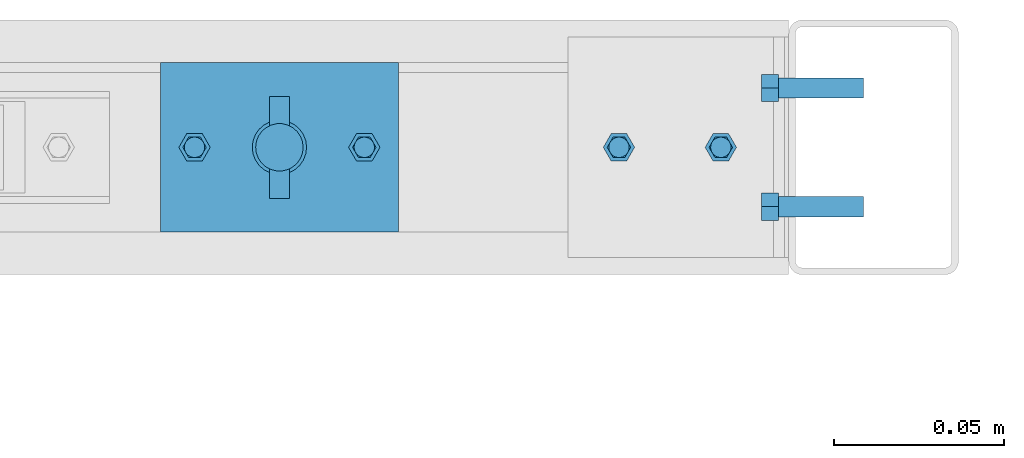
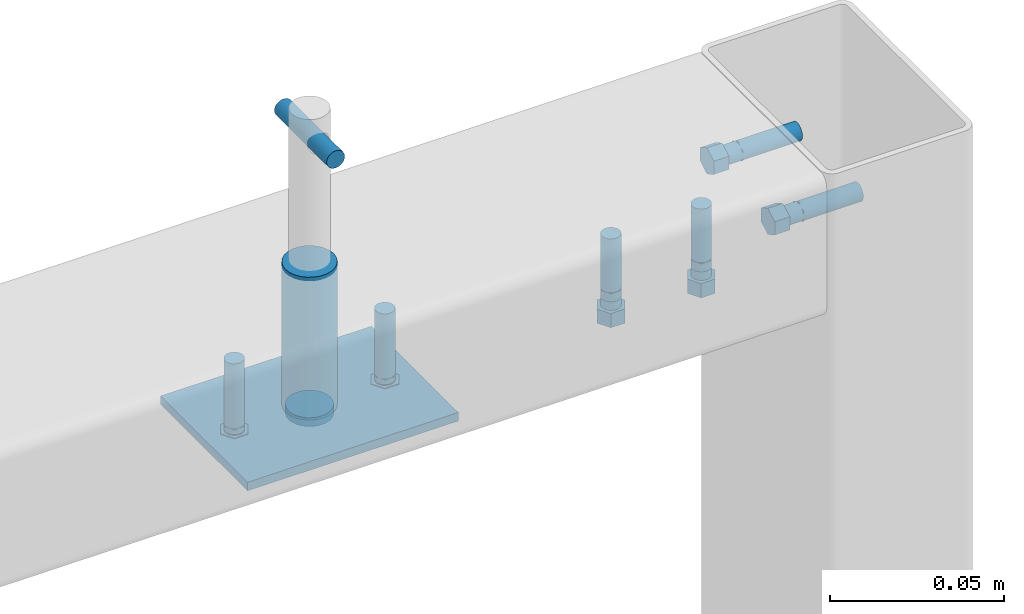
# One storey, part 76 of 91: 9 mechanical fasteners, 2 discrete accessories, 1 element without a shape of its own.
"""IFC2X3 building model written with IfcOpenShell, lengths in millimetres."""

from ifc_helpers import new_model, si_unit, frame, origin_with_axes, origin_2d_with_axis, place, context, subcontext, project, spatial, polyline, circle, outline, extrude, source, transform, mapped, material, type_object, element, aggregate, save


model = new_model("IFC2X3")

# Units and contexts
model_context = context("Model", 3, precision=1e-05, world=origin_with_axes())
body_context = subcontext(model_context, "Body", "Model", "MODEL_VIEW")
ifc_project = project(units=[si_unit("LENGTHUNIT", "METRE", prefix="MILLI"), si_unit("AREAUNIT", "SQUARE_METRE"), si_unit("VOLUMEUNIT", "CUBIC_METRE"), si_unit("MASSUNIT", "GRAM", prefix="KILO"), si_unit("TIMEUNIT", "SECOND"), si_unit("PLANEANGLEUNIT", "RADIAN"), si_unit("SOLIDANGLEUNIT", "STERADIAN"), si_unit("THERMODYNAMICTEMPERATUREUNIT", "DEGREE_CELSIUS"), si_unit("LUMINOUSINTENSITYUNIT", "LUMEN")], contexts=[model_context])

# Site, building, storey
site_placement = place(None, origin_with_axes())
site = spatial("IfcSite", under=ifc_project, at=site_placement, Name="Undefined", CompositionType="ELEMENT")
building_placement = place(site_placement, origin_with_axes())
building = spatial("IfcBuilding", under=site, at=building_placement, Name="Undefined", CompositionType="ELEMENT")
storey_placement = place(building_placement, origin_with_axes())
storey = spatial("IfcBuildingStorey", under=building, at=storey_placement, Name="Undefined", CompositionType="ELEMENT", Elevation=0.0)

# Assembly, mechanical fasteners, discrete accessories
assembly_placement = place(storey_placement, origin_with_axes())
assembly = element("IfcElementAssembly", 1, at=assembly_placement, inside=storey, Name="Sliding Door Beam", AssemblyPlace="NOTDEFINED", PredefinedType="RIGID_FRAME")
ifc_material_1 = material(Name="TEK_11TPIM")
discrete_accessory_type_1 = type_object("IfcDiscreteAccessoryType", Name="Bolt assembly")
shared_shape_1 = source(origin_with_axes(), body_context, "Body", "SweptSolid", [
    extrude(circle(Radius=3.0, at=origin_2d_with_axis()), frame((0.0, 6.10000000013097, 0.0), z_axis=(0.0, 1.0, 0.0), x_axis=(1.0, 0.0, 0.0)), (0.0, 0.0, 1.0), 3.0),
    extrude(circle(Radius=3.0, at=origin_2d_with_axis()), frame((0.0, 8.9, 0.0), z_axis=(0.0, 1.0, 0.0), x_axis=(1.0, 0.0, 0.0)), (0.0, 0.0, 1.0), 2.1),
    extrude(outline(polyline([(4.61880215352, 0.0), (2.30940107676, 4.00000000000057), (-2.30940107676, 4.00000000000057), (-4.61880215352, 0.0), (-2.30940107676, -4.00000000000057), (2.30940107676, -4.00000000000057), (4.61880215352, 0.0)])), frame((0.0, 1.00000000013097, 0.0), z_axis=(0.0, 1.0, 0.0), x_axis=(1.0, 0.0, 0.0)), (0.0, 0.0, 1.0), 5.0),
    extrude(circle(Radius=3.0, at=origin_2d_with_axis()), frame((0.0, 6.00000000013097, 0.0), z_axis=(0.0, 1.0, 0.0), x_axis=(1.0, 0.0, 0.0)), (0.0, 0.0, 1.0), 25.0),
    extrude(circle(Radius=3.0, at=origin_2d_with_axis()), frame((0.0, 11.0, 0.0), z_axis=(0.0, 1.0, 0.0), x_axis=(1.0, 0.0, 0.0)), (0.0, 0.0, 1.0), 0.1),
    extrude(outline(polyline([(3.46410161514, 0.0), (1.73205080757, 3.00000000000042), (-1.73205080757, 3.00000000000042), (-3.46410161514, 0.0), (-1.73205080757, -3.00000000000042), (1.73205080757, -3.00000000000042), (3.46410161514, 0.0)])), frame((0.0, 11.1000000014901, 0.0), z_axis=(0.0, 1.0, 0.0), x_axis=(1.0, 0.0, 0.0)), (0.0, 0.0, 1.0), 0.1),
])
mechanical_fastener_1_placement = place(assembly_placement, frame((-110610.29, 93380.0, 3351.0), z_axis=(0.0, -1.0, 0.0), x_axis=(0.0, 0.0, -1.0)))
mechanical_fastener_1 = element("IfcMechanicalFastener", 2, at=mechanical_fastener_1_placement, type_object=discrete_accessory_type_1, material=ifc_material_1, Name="Bolt assembly", NominalDiameter=6.0, NominalLength=25.0, context=body_context, shape_type="MappedRepresentation", body=[
    mapped(shared_shape_1, transform((0.0, 0.0, -17.5))),
    mapped(shared_shape_1, transform((0.0, 0.0, 17.5))),
])
shared_shape_2 = source(origin_with_axes(), body_context, "Body", "SweptSolid", [
    extrude(circle(Radius=3.0, at=origin_2d_with_axis()), frame((0.0, 0.1, 0.0), z_axis=(0.0, 1.0, 0.0), x_axis=(1.0, 0.0, 0.0)), (0.0, 0.0, 1.0), 2.0),
    extrude(circle(Radius=3.0, at=origin_2d_with_axis()), frame((0.0, 2.90000000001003, 0.0), z_axis=(0.0, 1.0, 0.0), x_axis=(1.0, 0.0, 0.0)), (0.0, 0.0, 1.0), 3.1),
    extrude(outline(polyline([(4.61880215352, 0.0), (2.30940107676, 4.00000000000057), (-2.30940107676, 4.00000000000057), (-4.61880215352, 0.0), (-2.30940107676, -4.00000000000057), (2.30940107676, -4.00000000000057), (4.61880215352, 0.0)])), frame((0.0, -5.0, 0.0), z_axis=(0.0, 1.0, 0.0), x_axis=(1.0, 0.0, 0.0)), (0.0, 0.0, 1.0), 5.0),
    extrude(circle(Radius=3.0, at=origin_2d_with_axis()), frame((0.0, 0.0, 0.0), z_axis=(0.0, 1.0, 0.0), x_axis=(1.0, 0.0, 0.0)), (0.0, 0.0, 1.0), 25.0),
    extrude(circle(Radius=3.0, at=origin_2d_with_axis()), frame((0.0, 6.00000000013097, 0.0), z_axis=(0.0, 1.0, 0.0), x_axis=(1.0, 0.0, 0.0)), (0.0, 0.0, 1.0), 0.1),
    extrude(outline(polyline([(3.46410161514, 0.0), (1.73205080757, 3.00000000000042), (-1.73205080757, 3.00000000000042), (-3.46410161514, 0.0), (-1.73205080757, -3.00000000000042), (1.73205080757, -3.00000000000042), (3.46410161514, 0.0)])), frame((0.0, 6.10000000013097, 0.0), z_axis=(0.0, 1.0, 0.0), x_axis=(1.0, 0.0, 0.0)), (0.0, 0.0, 1.0), 0.1),
])
mechanical_fastener_2_placement = place(assembly_placement, frame((-110621.29, 93380.0, 3326.0), z_axis=(0.0, 1.0, 0.0), x_axis=(-1.0, 0.0, 0.0)))
mechanical_fastener_2 = element("IfcMechanicalFastener", 3, at=mechanical_fastener_2_placement, type_object=discrete_accessory_type_1, material=ifc_material_1, Name="Bolt assembly", NominalDiameter=6.0, NominalLength=25.0, context=body_context, shape_type="MappedRepresentation", body=[
    mapped(shared_shape_2, transform((0.0, 0.0, 0.0))),
    mapped(shared_shape_2, transform((30.0, 0.0, 0.0))),
])
ifc_material_2 = material(Name="STEEL/250")
discrete_accessory_type_2 = type_object("IfcDiscreteAccessoryType", Name="PLATE")
discrete_accessory_1_placement = place(assembly_placement, frame((-110786.29, 93405.0, 3324.5), z_axis=(0.0, 0.0, 1.0), x_axis=(0.0, -1.0, 0.0)))
discrete_accessory_1 = element("IfcDiscreteAccessory", 4, at=discrete_accessory_1_placement, type_object=discrete_accessory_type_2, material=ifc_material_2, Name="PLATE", ObjectType="PLT3*50", context=body_context, shape_type="SweptSolid", body=[
    extrude(outline(polyline([(0.0, 0.0), (50.0, 0.0), (50.0, 70.0), (0.0, 70.0), (0.0, 0.0)])), frame((0.0, 0.0, -1.5), z_axis=(0.0, 0.0, 1.0), x_axis=(1.0, 0.0, 0.0)), (0.0, 0.0, 1.0), 3.0),
])
shared_shape_3 = source(origin_with_axes(), body_context, "Body", "SweptSolid", [
    extrude(circle(Radius=3.0, at=origin_2d_with_axis()), frame((0.0, 2.00000000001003, 0.0), z_axis=(0.0, 1.0, 0.0), x_axis=(1.0, 0.0, 0.0)), (0.0, 0.0, 1.0), 3.1),
])
mechanical_fastener_3_placement = place(assembly_placement, frame((-110621.29, 93380.0, 3327.0), z_axis=(0.0, 1.0, 0.0), x_axis=(-1.0, 0.0, 0.0)))
mechanical_fastener_3 = element("IfcMechanicalFastener", 5, at=mechanical_fastener_3_placement, type_object=discrete_accessory_type_1, material=ifc_material_1, Name="Bolt assembly", NominalDiameter=6.0, NominalLength=8.0, context=body_context, shape_type="MappedRepresentation", body=[
    mapped(shared_shape_3, transform((0.0, 0.0, 0.0))),
    mapped(shared_shape_3, transform((30.0, 0.0, 0.0))),
])
ifc_material_3 = material(Name="8.8S")
shared_shape_4 = source(origin_with_axes(), body_context, "Body", "SweptSolid", [
    extrude(circle(Radius=3.0, at=origin_2d_with_axis()), frame((0.0, -1.0, 0.0), z_axis=(0.0, 1.0, 0.0), x_axis=(1.0, 0.0, 0.0)), (0.0, 0.0, 1.0), 3.1),
])
mechanical_fastener_4_placement = place(assembly_placement, frame((-110726.29, 93380.0, 3324.0), z_axis=(0.0, 1.0, 0.0), x_axis=(-1.0, 0.0, 0.0)))
mechanical_fastener_4 = element("IfcMechanicalFastener", 6, at=mechanical_fastener_4_placement, type_object=discrete_accessory_type_1, material=ifc_material_3, Name="Bolt assembly", NominalDiameter=6.0, NominalLength=3.0, context=body_context, shape_type="MappedRepresentation", body=[
    mapped(shared_shape_4, transform((0.0, 0.0, 0.0))),
])
mechanical_fastener_5_placement = place(assembly_placement, frame((-110776.29, 93380.0, 3324.0), z_axis=(0.0, -1.0, 0.0), x_axis=(1.0, 0.0, 0.0)))
mechanical_fastener_5 = element("IfcMechanicalFastener", 7, at=mechanical_fastener_5_placement, type_object=discrete_accessory_type_1, material=ifc_material_3, Name="Bolt assembly", NominalDiameter=6.0, NominalLength=3.0, context=body_context, shape_type="MappedRepresentation", body=[
    mapped(shared_shape_4, transform((0.0, 0.0, 0.0))),
])
shared_shape_5 = source(origin_with_axes(), body_context, "Body", "SweptSolid", [
    extrude(circle(Radius=7.0, at=origin_2d_with_axis()), frame((0.0, -1.0, 0.0), z_axis=(0.0, 1.0, 0.0), x_axis=(1.0, 0.0, 0.0)), (0.0, 0.0, 1.0), 3.1),
])
mechanical_fastener_6_placement = place(assembly_placement, frame((-110751.29, 93380.0, 3324.0), z_axis=(0.0, -1.0, 0.0), x_axis=(1.0, 0.0, 0.0)))
mechanical_fastener_6 = element("IfcMechanicalFastener", 8, at=mechanical_fastener_6_placement, type_object=discrete_accessory_type_1, material=ifc_material_3, Name="Bolt assembly", NominalDiameter=12.0, NominalLength=3.0, context=body_context, shape_type="MappedRepresentation", body=[
    mapped(shared_shape_5, transform((0.0, 0.0, 0.0))),
])
shared_shape_6 = source(origin_with_axes(), body_context, "Body", "SweptSolid", [
    extrude(circle(Radius=3.0, at=origin_2d_with_axis()), frame((0.0, 0.0, 0.0), z_axis=(0.0, 1.0, 0.0), x_axis=(1.0, 0.0, 0.0)), (0.0, 0.0, 1.0), 2.1),
    extrude(outline(polyline([(4.61880215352, 0.0), (2.30940107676, 4.00000000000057), (-2.30940107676, 4.00000000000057), (-4.61880215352, 0.0), (-2.30940107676, -4.00000000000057), (2.30940107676, -4.00000000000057), (4.61880215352, 0.0)])), frame((0.0, -5.0, 0.0), z_axis=(0.0, 1.0, 0.0), x_axis=(1.0, 0.0, 0.0)), (0.0, 0.0, 1.0), 5.0),
    extrude(circle(Radius=3.0, at=origin_2d_with_axis()), frame((0.0, 0.0, 0.0), z_axis=(0.0, 1.0, 0.0), x_axis=(1.0, 0.0, 0.0)), (0.0, 0.0, 1.0), 25.0),
    extrude(circle(Radius=3.0, at=origin_2d_with_axis()), frame((0.0, 2.00000000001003, 0.0), z_axis=(0.0, 1.0, 0.0), x_axis=(1.0, 0.0, 0.0)), (0.0, 0.0, 1.0), 0.1),
    extrude(outline(polyline([(3.46410161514, 0.0), (1.73205080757, 3.00000000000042), (-1.73205080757, 3.00000000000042), (-3.46410161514, 0.0), (-1.73205080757, -3.00000000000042), (1.73205080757, -3.00000000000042), (3.46410161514, 0.0)])), frame((0.0, 2.10000000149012, 0.0), z_axis=(0.0, 1.0, 0.0), x_axis=(1.0, 0.0, 0.0)), (0.0, 0.0, 1.0), 0.1),
])
mechanical_fastener_7_placement = place(assembly_placement, frame((-110726.29, 93380.0, 3326.0), z_axis=(0.0, 1.0, 0.0), x_axis=(-1.0, 0.0, 0.0)))
mechanical_fastener_7 = element("IfcMechanicalFastener", 9, at=mechanical_fastener_7_placement, type_object=discrete_accessory_type_1, material=ifc_material_1, Name="Bolt assembly", NominalDiameter=6.0, NominalLength=25.0, context=body_context, shape_type="MappedRepresentation", body=[
    mapped(shared_shape_6, transform((0.0, 0.0, 0.0))),
])
mechanical_fastener_8_placement = place(assembly_placement, frame((-110776.29, 93380.0, 3326.0), z_axis=(0.0, -1.0, 0.0), x_axis=(1.0, 0.0, 0.0)))
mechanical_fastener_8 = element("IfcMechanicalFastener", 10, at=mechanical_fastener_8_placement, type_object=discrete_accessory_type_1, material=ifc_material_1, Name="Bolt assembly", NominalDiameter=6.0, NominalLength=25.0, context=body_context, shape_type="MappedRepresentation", body=[
    mapped(shared_shape_6, transform((0.0, 0.0, 0.0))),
])
shared_shape_7 = source(origin_with_axes(), body_context, "Body", "SweptSolid", [
    extrude(circle(Radius=8.0, at=origin_2d_with_axis()), frame((0.0, 0.0, 0.0), z_axis=(0.0, 1.0, 0.0), x_axis=(1.0, 0.0, 0.0)), (0.0, 0.0, 1.0), 50.1),
])
mechanical_fastener_9_placement = place(assembly_placement, frame((-110751.29, 93380.0, 3326.0), z_axis=(0.0, 1.0, 0.0), x_axis=(-1.0, 0.0, 0.0)))
mechanical_fastener_9 = element("IfcMechanicalFastener", 11, at=mechanical_fastener_9_placement, type_object=discrete_accessory_type_1, material=ifc_material_3, Name="Bolt assembly", NominalDiameter=10.0, NominalLength=50.0, context=body_context, shape_type="MappedRepresentation", body=[
    mapped(shared_shape_7, transform((0.0, 0.0, 0.0))),
])
discrete_accessory_type_3 = type_object("IfcDiscreteAccessoryType", Name="SPRING PIN")
discrete_accessory_2_placement = place(assembly_placement, frame((-110751.29, 93365.0, 3421.0), z_axis=(1.0, 0.0, 0.0), x_axis=(0.0, 1.0, 0.0)))
discrete_accessory_2 = element("IfcDiscreteAccessory", 12, at=discrete_accessory_2_placement, type_object=discrete_accessory_type_3, material=ifc_material_2, Name="SPRING PIN", ObjectType="D6", context=body_context, shape_type="SweptSolid", body=[
    extrude(circle(Radius=3.0, at=origin_2d_with_axis()), frame((30.0, 0.0, 0.0), z_axis=(-1.0, 0.0, 0.0), x_axis=(0.0, -1.0, 0.0)), (0.0, 0.0, 1.0), 30.0),
])
aggregate(assembly, [mechanical_fastener_1, mechanical_fastener_3, mechanical_fastener_2, mechanical_fastener_4, mechanical_fastener_5, mechanical_fastener_6, mechanical_fastener_7, mechanical_fastener_8, mechanical_fastener_9, discrete_accessory_2, discrete_accessory_1])

save(model, "model.ifc")
